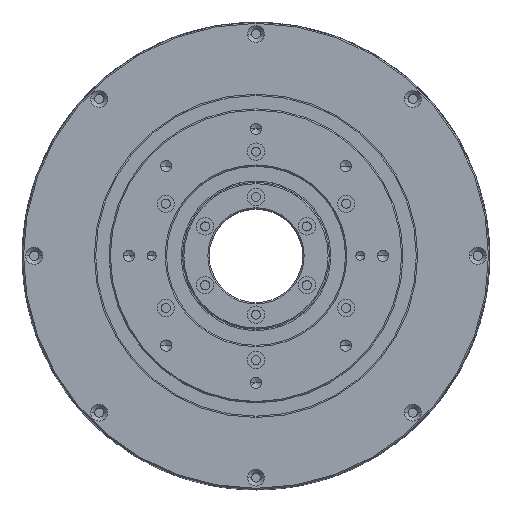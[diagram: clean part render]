
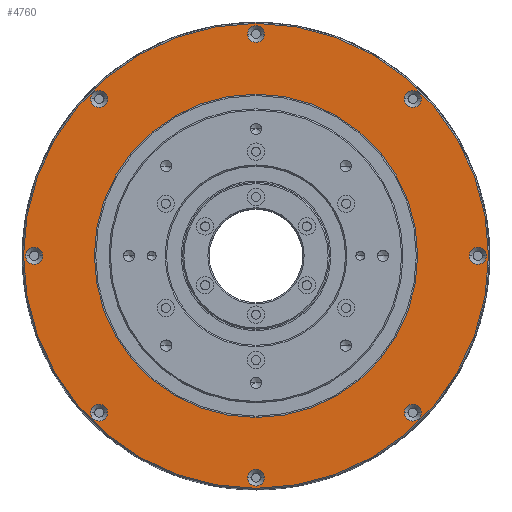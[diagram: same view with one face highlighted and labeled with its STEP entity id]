
A CAD part, top view. The second image highlights one B-rep face of the part: STEP entity #4760.
In plain terms, the highlighted planar face has unit normal (0, 0, 1).
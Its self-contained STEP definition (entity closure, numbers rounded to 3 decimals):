
#1118=CARTESIAN_POINT('',(0.,0.,74.));
#1119=DIRECTION('',(0.,0.,1.));
#1120=DIRECTION('',(1.,0.,0.));
#1121=AXIS2_PLACEMENT_3D('',#1118,#1119,#1120);
#1123=CARTESIAN_POINT('',(0.,0.,74.));
#1124=DIRECTION('',(0.,0.,1.));
#1125=DIRECTION('',(-1.,0.,0.));
#1126=AXIS2_PLACEMENT_3D('',#1123,#1124,#1125);
#1128=CARTESIAN_POINT('',(0.,0.,74.));
#1129=DIRECTION('',(0.,0.,-1.));
#1130=DIRECTION('',(-1.,0.,0.));
#1131=AXIS2_PLACEMENT_3D('',#1128,#1129,#1130);
#1133=CARTESIAN_POINT('',(0.,0.,74.));
#1134=DIRECTION('',(0.,0.,-1.));
#1135=DIRECTION('',(1.,0.,0.));
#1136=AXIS2_PLACEMENT_3D('',#1133,#1134,#1135);
#1138=CARTESIAN_POINT('',(0.,83.,74.));
#1139=DIRECTION('',(0.,0.,-1.));
#1140=DIRECTION('',(1.,0.,0.));
#1141=AXIS2_PLACEMENT_3D('',#1138,#1139,#1140);
#1143=CARTESIAN_POINT('',(0.,83.,74.));
#1144=DIRECTION('',(0.,0.,-1.));
#1145=DIRECTION('',(-1.,0.,0.));
#1146=AXIS2_PLACEMENT_3D('',#1143,#1144,#1145);
#1148=CARTESIAN_POINT('',(58.69,58.69,74.));
#1149=DIRECTION('',(0.,0.,-1.));
#1150=DIRECTION('',(1.,0.,0.));
#1151=AXIS2_PLACEMENT_3D('',#1148,#1149,#1150);
#1153=CARTESIAN_POINT('',(58.69,58.69,74.));
#1154=DIRECTION('',(0.,0.,-1.));
#1155=DIRECTION('',(-1.,0.,0.));
#1156=AXIS2_PLACEMENT_3D('',#1153,#1154,#1155);
#1158=CARTESIAN_POINT('',(83.,0.,74.));
#1159=DIRECTION('',(0.,0.,-1.));
#1160=DIRECTION('',(1.,0.,0.));
#1161=AXIS2_PLACEMENT_3D('',#1158,#1159,#1160);
#1163=CARTESIAN_POINT('',(83.,0.,74.));
#1164=DIRECTION('',(0.,0.,-1.));
#1165=DIRECTION('',(-1.,0.,0.));
#1166=AXIS2_PLACEMENT_3D('',#1163,#1164,#1165);
#1168=CARTESIAN_POINT('',(58.69,-58.69,74.));
#1169=DIRECTION('',(0.,0.,-1.));
#1170=DIRECTION('',(1.,0.,0.));
#1171=AXIS2_PLACEMENT_3D('',#1168,#1169,#1170);
#1173=CARTESIAN_POINT('',(58.69,-58.69,74.));
#1174=DIRECTION('',(0.,0.,-1.));
#1175=DIRECTION('',(-1.,0.,0.));
#1176=AXIS2_PLACEMENT_3D('',#1173,#1174,#1175);
#1178=CARTESIAN_POINT('',(0.,-83.,74.));
#1179=DIRECTION('',(0.,0.,-1.));
#1180=DIRECTION('',(1.,0.,0.));
#1181=AXIS2_PLACEMENT_3D('',#1178,#1179,#1180);
#1183=CARTESIAN_POINT('',(0.,-83.,74.));
#1184=DIRECTION('',(0.,0.,-1.));
#1185=DIRECTION('',(-1.,0.,0.));
#1186=AXIS2_PLACEMENT_3D('',#1183,#1184,#1185);
#1188=CARTESIAN_POINT('',(-58.69,-58.69,
74.));
#1189=DIRECTION('',(0.,0.,-1.));
#1190=DIRECTION('',(1.,0.,0.));
#1191=AXIS2_PLACEMENT_3D('',#1188,#1189,#1190);
#1193=CARTESIAN_POINT('',(-58.69,-58.69,
74.));
#1194=DIRECTION('',(0.,0.,-1.));
#1195=DIRECTION('',(-1.,0.,0.));
#1196=AXIS2_PLACEMENT_3D('',#1193,#1194,#1195);
#1198=CARTESIAN_POINT('',(-83.,0.,74.));
#1199=DIRECTION('',(0.,0.,-1.));
#1200=DIRECTION('',(1.,0.,0.));
#1201=AXIS2_PLACEMENT_3D('',#1198,#1199,#1200);
#1203=CARTESIAN_POINT('',(-83.,0.,74.));
#1204=DIRECTION('',(0.,0.,-1.));
#1205=DIRECTION('',(-1.,0.,0.));
#1206=AXIS2_PLACEMENT_3D('',#1203,#1204,#1205);
#1208=CARTESIAN_POINT('',(-58.69,58.69,74.));
#1209=DIRECTION('',(0.,0.,-1.));
#1210=DIRECTION('',(1.,0.,0.));
#1211=AXIS2_PLACEMENT_3D('',#1208,#1209,#1210);
#1213=CARTESIAN_POINT('',(-58.69,58.69,74.));
#1214=DIRECTION('',(0.,0.,-1.));
#1215=DIRECTION('',(-1.,0.,0.));
#1216=AXIS2_PLACEMENT_3D('',#1213,#1214,#1215);
#3036=CARTESIAN_POINT('',(-87.,0.,74.));
#3037=VERTEX_POINT('',#3036);
#3084=CARTESIAN_POINT('',(-55.54,58.69,74.));
#3085=VERTEX_POINT('',#3084);
#3224=CARTESIAN_POINT('',(-3.15,-83.,74.));
#3225=VERTEX_POINT('',#3224);
#3226=CARTESIAN_POINT('',(86.15,0.,
74.));
#3227=CARTESIAN_POINT('',(79.85,0.,
74.));
#3228=VERTEX_POINT('',#3226);
#3229=VERTEX_POINT('',#3227);
#3230=CARTESIAN_POINT('',(-3.15,83.,74.));
#3232=VERTEX_POINT('',#3230);
#3234=CARTESIAN_POINT('',(60.5,0.,74.));
#3235=CARTESIAN_POINT('',(-60.5,0.,74.));
#3236=VERTEX_POINT('',#3234);
#3237=VERTEX_POINT('',#3235);
#3242=CARTESIAN_POINT('',(55.54,58.69,74.));
#3244=VERTEX_POINT('',#3242);
#3246=CARTESIAN_POINT('',(61.84,58.69,74.));
#3247=VERTEX_POINT('',#3246);
#3248=CARTESIAN_POINT('',(3.15,83.,74.));
#3250=VERTEX_POINT('',#3248);
#3254=CARTESIAN_POINT('',(-55.54,-58.69,
74.));
#3255=CARTESIAN_POINT('',(-61.84,-58.69,
74.));
#3256=VERTEX_POINT('',#3254);
#3257=VERTEX_POINT('',#3255);
#3262=CARTESIAN_POINT('',(-79.85,0.,
74.));
#3263=CARTESIAN_POINT('',(-86.15,0.,
74.));
#3264=VERTEX_POINT('',#3262);
#3265=VERTEX_POINT('',#3263);
#3274=CARTESIAN_POINT('',(-61.84,58.69,74.));
#3275=VERTEX_POINT('',#3274);
#3300=CARTESIAN_POINT('',(87.,0.,74.));
#3301=VERTEX_POINT('',#3300);
#3654=CARTESIAN_POINT('',(3.15,-83.,74.));
#3655=VERTEX_POINT('',#3654);
#3656=CARTESIAN_POINT('',(55.54,-58.69,74.));
#3657=CARTESIAN_POINT('',(61.84,-58.69,74.));
#3658=VERTEX_POINT('',#3656);
#3659=VERTEX_POINT('',#3657);
#4696=CARTESIAN_POINT('',(0.,0.,74.));
#4697=DIRECTION('',(0.,0.,1.));
#4698=DIRECTION('',(1.,0.,0.));
#4699=AXIS2_PLACEMENT_3D('',#4696,#4697,#4698);
#4700=PLANE('',#4699);
#4702=ORIENTED_EDGE('',*,*,#4701,.F.);
#4704=ORIENTED_EDGE('',*,*,#4703,.F.);
#4705=EDGE_LOOP('',(#4702,#4704));
#4706=FACE_OUTER_BOUND('',#4705,.F.);
#4708=ORIENTED_EDGE('',*,*,#4707,.F.);
#4709=ORIENTED_EDGE('',*,*,#4686,.F.);
#4710=EDGE_LOOP('',(#4708,#4709));
#4711=FACE_BOUND('',#4710,.F.);
#4713=ORIENTED_EDGE('',*,*,#4712,.F.);
#4715=ORIENTED_EDGE('',*,*,#4714,.F.);
#4716=EDGE_LOOP('',(#4713,#4715));
#4717=FACE_BOUND('',#4716,.F.);
#4719=ORIENTED_EDGE('',*,*,#4718,.F.);
#4721=ORIENTED_EDGE('',*,*,#4720,.F.);
#4722=EDGE_LOOP('',(#4719,#4721));
#4723=FACE_BOUND('',#4722,.F.);
#4725=ORIENTED_EDGE('',*,*,#4724,.F.);
#4727=ORIENTED_EDGE('',*,*,#4726,.F.);
#4728=EDGE_LOOP('',(#4725,#4727));
#4729=FACE_BOUND('',#4728,.F.);
#4731=ORIENTED_EDGE('',*,*,#4730,.F.);
#4733=ORIENTED_EDGE('',*,*,#4732,.F.);
#4734=EDGE_LOOP('',(#4731,#4733));
#4735=FACE_BOUND('',#4734,.F.);
#4737=ORIENTED_EDGE('',*,*,#4736,.F.);
#4739=ORIENTED_EDGE('',*,*,#4738,.F.);
#4740=EDGE_LOOP('',(#4737,#4739));
#4741=FACE_BOUND('',#4740,.F.);
#4743=ORIENTED_EDGE('',*,*,#4742,.F.);
#4745=ORIENTED_EDGE('',*,*,#4744,.F.);
#4746=EDGE_LOOP('',(#4743,#4745));
#4747=FACE_BOUND('',#4746,.F.);
#4749=ORIENTED_EDGE('',*,*,#4748,.F.);
#4751=ORIENTED_EDGE('',*,*,#4750,.F.);
#4752=EDGE_LOOP('',(#4749,#4751));
#4753=FACE_BOUND('',#4752,.F.);
#4755=ORIENTED_EDGE('',*,*,#4754,.F.);
#4757=ORIENTED_EDGE('',*,*,#4756,.F.);
#4758=EDGE_LOOP('',(#4755,#4757));
#4759=FACE_BOUND('',#4758,.F.);
#4760=ADVANCED_FACE('',(#4706,#4711,#4717,#4723,#4729,#4735,#4741,#4747,#4753,
#4759),#4700,.T.);
#1122=CIRCLE('',#1121,87.);
#1127=CIRCLE('',#1126,87.);
#1132=CIRCLE('',#1131,60.5);
#1137=CIRCLE('',#1136,60.5);
#1142=CIRCLE('',#1141,3.15);
#1147=CIRCLE('',#1146,3.15);
#1152=CIRCLE('',#1151,3.15);
#1157=CIRCLE('',#1156,3.15);
#1162=CIRCLE('',#1161,3.15);
#1167=CIRCLE('',#1166,3.15);
#1172=CIRCLE('',#1171,3.15);
#1177=CIRCLE('',#1176,3.15);
#1182=CIRCLE('',#1181,3.15);
#1187=CIRCLE('',#1186,3.15);
#1192=CIRCLE('',#1191,3.15);
#1197=CIRCLE('',#1196,3.15);
#1202=CIRCLE('',#1201,3.15);
#1207=CIRCLE('',#1206,3.15);
#1212=CIRCLE('',#1211,3.15);
#1217=CIRCLE('',#1216,3.15);
#4686=EDGE_CURVE('',#3236,#3237,#1137,.T.);
#4701=EDGE_CURVE('',#3301,#3037,#1122,.T.);
#4703=EDGE_CURVE('',#3037,#3301,#1127,.T.);
#4707=EDGE_CURVE('',#3237,#3236,#1132,.T.);
#4712=EDGE_CURVE('',#3250,#3232,#1142,.T.);
#4714=EDGE_CURVE('',#3232,#3250,#1147,.T.);
#4718=EDGE_CURVE('',#3247,#3244,#1152,.T.);
#4720=EDGE_CURVE('',#3244,#3247,#1157,.T.);
#4724=EDGE_CURVE('',#3228,#3229,#1162,.T.);
#4726=EDGE_CURVE('',#3229,#3228,#1167,.T.);
#4730=EDGE_CURVE('',#3659,#3658,#1172,.T.);
#4732=EDGE_CURVE('',#3658,#3659,#1177,.T.);
#4736=EDGE_CURVE('',#3655,#3225,#1182,.T.);
#4738=EDGE_CURVE('',#3225,#3655,#1187,.T.);
#4742=EDGE_CURVE('',#3256,#3257,#1192,.T.);
#4744=EDGE_CURVE('',#3257,#3256,#1197,.T.);
#4748=EDGE_CURVE('',#3264,#3265,#1202,.T.);
#4750=EDGE_CURVE('',#3265,#3264,#1207,.T.);
#4754=EDGE_CURVE('',#3085,#3275,#1212,.T.);
#4756=EDGE_CURVE('',#3275,#3085,#1217,.T.);
